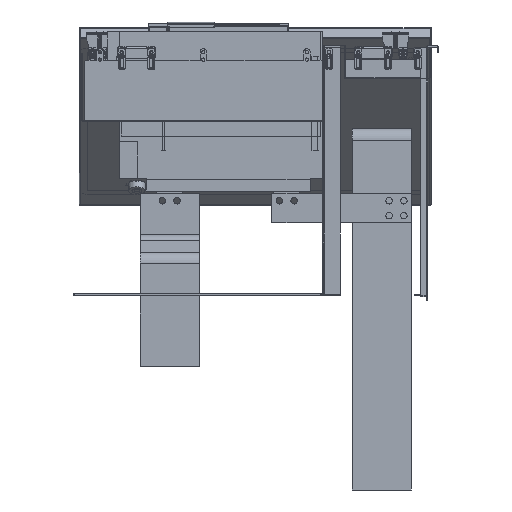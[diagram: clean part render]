
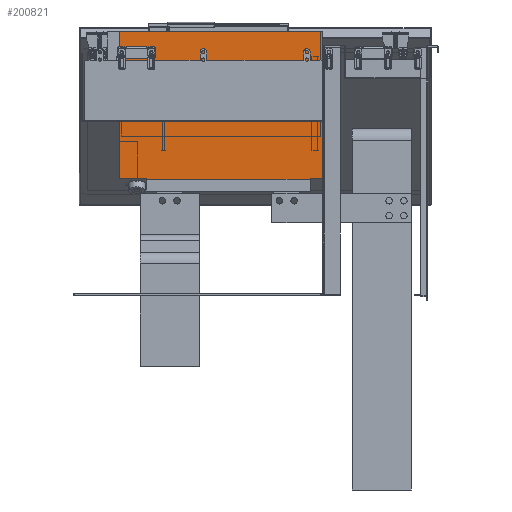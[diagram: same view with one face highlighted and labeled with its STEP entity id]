
A CAD part, left-side view. The second image highlights one B-rep face of the part: STEP entity #200821.
In plain terms, the highlighted planar face has unit normal (-1, 0, 0) as drawn and (1, 0, 0) by its records, which use the part's own axes.
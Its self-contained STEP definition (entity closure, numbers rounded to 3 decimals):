
#198021=CARTESIAN_POINT(' ',(122.5,167.,318.5));
#198022=VERTEX_POINT(' ',#198021);
#198036=CARTESIAN_POINT(' ',(122.5,167.,-24.5));
#198041=DIRECTION(' ',(0.,0.,1.));
#198046=VECTOR(' ',#198041,1.);
#198051=LINE('',#198036,#198046);
#198056=CARTESIAN_POINT(' ',(122.5,167.,-24.5));
#198057=VERTEX_POINT(' ',#198056);
#198061=EDGE_CURVE(' ',#198057,#198022,#198051,.T.);
#198171=CARTESIAN_POINT(' ',(122.5,-81.,-24.5));
#198172=VERTEX_POINT(' ',#198171);
#198196=CARTESIAN_POINT(' ',(122.5,-81.,-24.5));
#198201=DIRECTION(' ',(0.,1.,0.));
#198206=VECTOR(' ',#198201,1.);
#198211=LINE('',#198196,#198206);
#198216=EDGE_CURVE(' ',#198172,#198057,#198211,.T.);
#198651=CARTESIAN_POINT(' ',(122.5,-81.,-3.5));
#198652=VERTEX_POINT(' ',#198651);
#198721=CARTESIAN_POINT(' ',(122.5,-81.,273.5));
#198722=VERTEX_POINT(' ',#198721);
#198736=CARTESIAN_POINT(' ',(122.5,-81.,318.5));
#198741=DIRECTION(' ',(0.,0.,-1.));
#198746=VECTOR(' ',#198741,1.);
#198751=LINE('',#198736,#198746);
#198756=CARTESIAN_POINT(' ',(122.5,-81.,318.5));
#198757=VERTEX_POINT(' ',#198756);
#198761=EDGE_CURVE(' ',#198757,#198722,#198751,.T.);
#198951=CARTESIAN_POINT(' ',(122.5,-81.,-3.5));
#198956=DIRECTION(' ',(0.,0.,-1.));
#198961=VECTOR(' ',#198956,1.);
#198966=LINE('',#198951,#198961);
#198971=EDGE_CURVE(' ',#198652,#198172,#198966,.T.);
#199126=CARTESIAN_POINT(' ',(122.5,167.,318.5));
#199131=DIRECTION(' ',(0.,-1.,0.));
#199136=VECTOR(' ',#199131,1.);
#199141=LINE('',#199126,#199136);
#199146=EDGE_CURVE(' ',#198022,#198757,#199141,.T.);
#200661=DIRECTION(' ',(1.,0.,0.));
#200666=CARTESIAN_POINT(' ',(122.5,-82.,-24.5));
#200671=DIRECTION(' ',(0.,1.,0.));
#200676=AXIS2_PLACEMENT_3D(' ',#200666,#200661,#200671);
#200681=PLANE('NONE',#200676);
#200686=CARTESIAN_POINT(' ',(122.5,-81.,273.5));
#200691=DIRECTION(' ',(0.,-1.,0.));
#200696=VECTOR(' ',#200691,1.);
#200701=LINE('',#200686,#200696);
#200706=CARTESIAN_POINT(' ',(122.5,-82.,273.5));
#200707=VERTEX_POINT(' ',#200706);
#200711=EDGE_CURVE(' ',#198722,#200707,#200701,.T.);
#200716=ORIENTED_EDGE(' ',*,*,#200711,.T.);
#200721=CARTESIAN_POINT(' ',(122.5,-82.,-3.5));
#200726=DIRECTION(' ',(0.,0.,1.));
#200731=VECTOR(' ',#200726,1.);
#200736=LINE('',#200721,#200731);
#200741=CARTESIAN_POINT(' ',(122.5,-82.,-3.5));
#200742=VERTEX_POINT(' ',#200741);
#200746=EDGE_CURVE(' ',#200742,#200707,#200736,.T.);
#200751=ORIENTED_EDGE(' ',*,*,#200746,.F.);
#200756=CARTESIAN_POINT(' ',(122.5,-81.,-3.5));
#200761=DIRECTION(' ',(0.,-1.,0.));
#200766=VECTOR(' ',#200761,1.);
#200771=LINE('',#200756,#200766);
#200776=EDGE_CURVE(' ',#198652,#200742,#200771,.T.);
#200781=ORIENTED_EDGE(' ',*,*,#200776,.F.);
#200786=ORIENTED_EDGE(' ',*,*,#198971,.T.);
#200791=ORIENTED_EDGE(' ',*,*,#198216,.T.);
#200796=ORIENTED_EDGE(' ',*,*,#198061,.T.);
#200801=ORIENTED_EDGE(' ',*,*,#199146,.T.);
#200806=ORIENTED_EDGE(' ',*,*,#198761,.T.);
#200811=EDGE_LOOP(' ',(#200716,#200751,#200781,#200786,#200791,#200796,#200801,#200806));
#200816=FACE_OUTER_BOUND(' ',#200811,.T.);
#200821=ADVANCED_FACE('NONE',(#200816),#200681,.T.);
